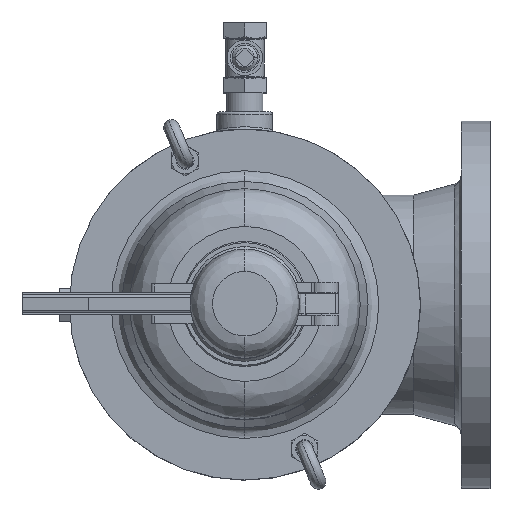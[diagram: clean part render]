
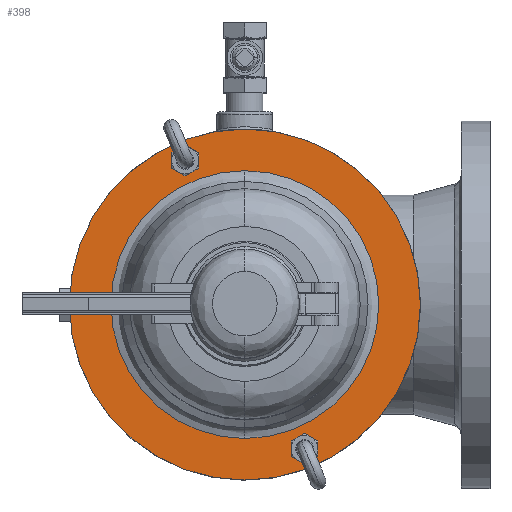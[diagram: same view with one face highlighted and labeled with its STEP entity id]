
A CAD part, top view. The second image highlights one B-rep face of the part: STEP entity #398.
In plain terms, the highlighted planar face has unit normal (0, 0, 1) as drawn and (0, 1, 0) by its records, which use the part's own axes.
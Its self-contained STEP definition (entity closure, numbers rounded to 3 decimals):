
#398=ADVANCED_FACE('',(#886,#887,#888,#889),#885,.T.);
#885=PLANE('',#5843);
#886=FACE_OUTER_BOUND('',#5844,.T.);
#887=FACE_BOUND('',#5845,.T.);
#888=FACE_BOUND('',#5846,.T.);
#889=FACE_BOUND('',#5847,.T.);
#5840=CARTESIAN_POINT('',(-282.798,162.5,-325.));
#5841=DIRECTION('',(0.,1.,0.));
#5842=DIRECTION('',(0.,0.,1.));
#5843=AXIS2_PLACEMENT_3D('',#5840,#5841,#5842);
#5844=EDGE_LOOP('',(#17919,#17920));
#5845=EDGE_LOOP('',(#17921,#17922));
#5846=EDGE_LOOP('',(#17923,#17924));
#5847=EDGE_LOOP('',(#17925,#17926));
#17919=ORIENTED_EDGE('',*,*,#20407,.T.);
#17920=ORIENTED_EDGE('',*,*,#20408,.T.);
#17921=ORIENTED_EDGE('',*,*,#20409,.F.);
#17922=ORIENTED_EDGE('',*,*,#20410,.F.);
#17923=ORIENTED_EDGE('',*,*,#20411,.F.);
#17924=ORIENTED_EDGE('',*,*,#20412,.F.);
#17925=ORIENTED_EDGE('',*,*,#20413,.T.);
#17926=ORIENTED_EDGE('',*,*,#20414,.T.);
#20407=EDGE_CURVE('',#21651,#21652,#21653,.T.);
#20408=EDGE_CURVE('',#21652,#21651,#21659,.T.);
#20409=EDGE_CURVE('',#21665,#21666,#21667,.T.);
#20410=EDGE_CURVE('',#21666,#21665,#21673,.T.);
#20411=EDGE_CURVE('',#21679,#21680,#21681,.T.);
#20412=EDGE_CURVE('',#21680,#21679,#21687,.T.);
#20413=EDGE_CURVE('',#21693,#21694,#21695,.T.);
#20414=EDGE_CURVE('',#21694,#21693,#21701,.T.);
#21651=VERTEX_POINT('',#29917);
#21652=VERTEX_POINT('',#29918);
#21653=CIRCLE('',#29922,157.5);
#21659=CIRCLE('',#29926,157.5);
#21665=VERTEX_POINT('',#29927);
#21666=VERTEX_POINT('',#29928);
#21667=CIRCLE('',#29932,8.);
#21673=CIRCLE('',#29936,8.);
#21679=VERTEX_POINT('',#29937);
#21680=VERTEX_POINT('',#29938);
#21681=CIRCLE('',#29942,8.);
#21687=CIRCLE('',#29946,8.);
#21693=VERTEX_POINT('',#29947);
#21694=VERTEX_POINT('',#29948);
#21695=CIRCLE('',#29952,120.173);
#21701=CIRCLE('',#29956,120.173);
#29917=CARTESIAN_POINT('',(0.,162.5,157.5));
#29918=CARTESIAN_POINT('',(0.,162.5,-157.5));
#29919=CARTESIAN_POINT('',(0.,162.5,0.));
#29920=DIRECTION('',(0.,1.,0.));
#29921=DIRECTION('',(0.,0.,1.));
#29922=AXIS2_PLACEMENT_3D('',#29919,#29920,#29921);
#29923=CARTESIAN_POINT('',(0.,162.5,0.));
#29924=DIRECTION('',(0.,1.,0.));
#29925=DIRECTION('',(0.,0.,1.));
#29926=AXIS2_PLACEMENT_3D('',#29923,#29924,#29925);
#29927=CARTESIAN_POINT('',(-53.576,162.5,-137.343));
#29928=CARTESIAN_POINT('',(-53.576,162.5,-121.343));
#29929=CARTESIAN_POINT('',(-53.576,162.5,-129.343));
#29930=DIRECTION('',(0.,1.,0.));
#29931=DIRECTION('',(0.,0.,1.));
#29932=AXIS2_PLACEMENT_3D('',#29929,#29930,#29931);
#29933=CARTESIAN_POINT('',(-53.576,162.5,-129.343));
#29934=DIRECTION('',(0.,1.,0.));
#29935=DIRECTION('',(0.,0.,1.));
#29936=AXIS2_PLACEMENT_3D('',#29933,#29934,#29935);
#29937=CARTESIAN_POINT('',(53.576,162.5,121.343));
#29938=CARTESIAN_POINT('',(53.576,162.5,137.343));
#29939=CARTESIAN_POINT('',(53.576,162.5,129.343));
#29940=DIRECTION('',(0.,1.,0.));
#29941=DIRECTION('',(0.,0.,1.));
#29942=AXIS2_PLACEMENT_3D('',#29939,#29940,#29941);
#29943=CARTESIAN_POINT('',(53.576,162.5,129.343));
#29944=DIRECTION('',(0.,1.,0.));
#29945=DIRECTION('',(0.,0.,1.));
#29946=AXIS2_PLACEMENT_3D('',#29943,#29944,#29945);
#29947=CARTESIAN_POINT('',(0.,162.5,120.173));
#29948=CARTESIAN_POINT('',(0.,162.5,-120.173));
#29949=CARTESIAN_POINT('',(0.,162.5,0.));
#29950=DIRECTION('',(0.,-1.,0.));
#29951=DIRECTION('',(0.,0.,1.));
#29952=AXIS2_PLACEMENT_3D('',#29949,#29950,#29951);
#29953=CARTESIAN_POINT('',(0.,162.5,0.));
#29954=DIRECTION('',(0.,-1.,0.));
#29955=DIRECTION('',(0.,0.,1.));
#29956=AXIS2_PLACEMENT_3D('',#29953,#29954,#29955);
